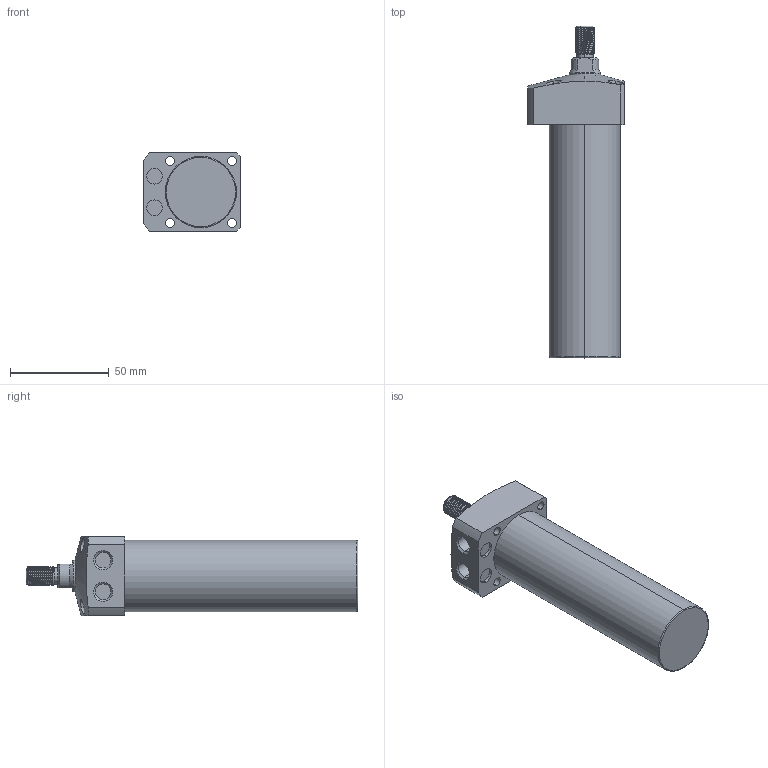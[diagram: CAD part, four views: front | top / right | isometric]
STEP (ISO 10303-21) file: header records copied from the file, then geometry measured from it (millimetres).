
FILE_DESCRIPTION (( 'STEP AP203' ), '1' );
FILE_NAME ('CLL-036CT-095.STEP', '2020-01-08T08:52:48', ( '' ), ( '' ), 'SwSTEP 2.0', 'SolidWorks 2015', '' );
FILE_SCHEMA (( 'CONFIG_CONTROL_DESIGN' ));
Length unit declared in the file: millimetre
Products named in the file (1): CLL-036CT-095
Bounding box: 49 x 168 x 40 mm (x, y, z)
Volume: 163007.9 mm3; surface area: 24009.8 mm2
Topology: 1 solids, 1 shells, 104 faces, 259 edges, 168 vertices
Faces by surface type: cylinder 61, plane 23, cone 16, torus 2, bspline 2
Entity records: 5035 total; most frequent: CARTESIAN_POINT 2616, ORIENTED_EDGE 518, DIRECTION 460, EDGE_CURVE 259, AXIS2_PLACEMENT_3D 185, VERTEX_POINT 168, EDGE_LOOP 123, ADVANCED_FACE 104
